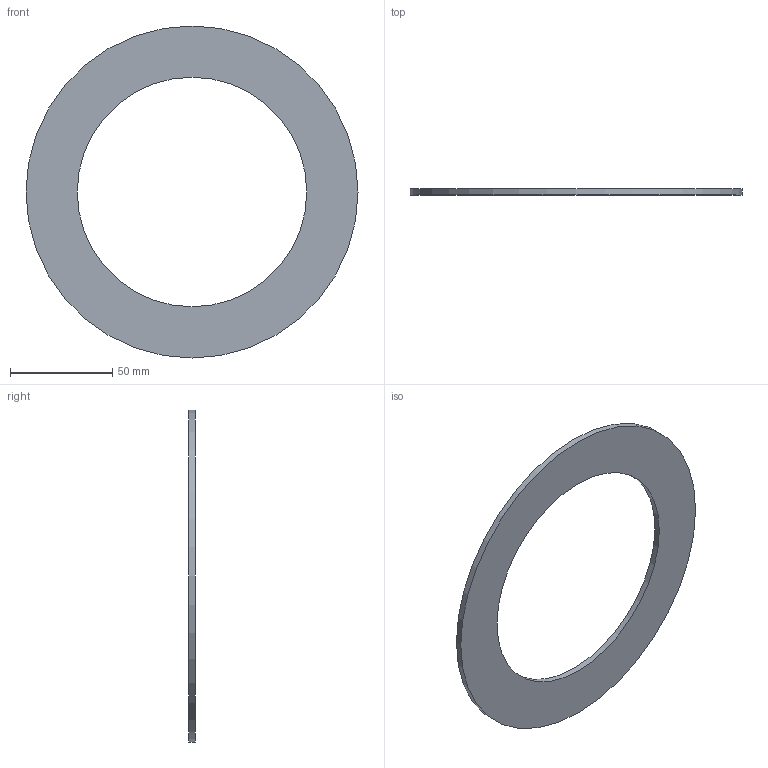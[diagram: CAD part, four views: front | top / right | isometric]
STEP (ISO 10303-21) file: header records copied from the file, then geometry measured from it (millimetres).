
FILE_DESCRIPTION(/* description */ ('Unknown'),/* implementation_level */ '2;1');
FILE_NAME(/* name */ 'GUA.125B',/* time_stamp */ '2021-04-01T11:37:43+02:00',/* author */ ('Unknown'),/* organization */ ('Unknown'),/* preprocessor_version */ 'ST-DEVELOPER v16.7',/* originating_system */ 'Solid Edge',/* authorisation */ 'Unknown');
FILE_SCHEMA (('AUTOMOTIVE_DESIGN {1 0 10303 214 3 1 1}'));
Length unit declared in the file: millimetre
Products named in the file (1): GUA.125B
Bounding box: 162 x 3 x 162 mm (x, y, z)
Volume: 32279.9 mm3; surface area: 24102.3 mm2
Topology: 1 solids, 1 shells, 4 faces, 6 edges, 4 vertices
Faces by surface type: cylinder 2, plane 2
Full cylindrical faces by diameter (mm): 112 x1, 162 x1
Entity records: 118 total; most frequent: DIRECTION 18, CARTESIAN_POINT 13, AXIS2_PLACEMENT_3D 9, ORIENTED_EDGE 8, EDGE_LOOP 8, FACE_BOUND 8, EDGE_CURVE 4, VERTEX_POINT 4
